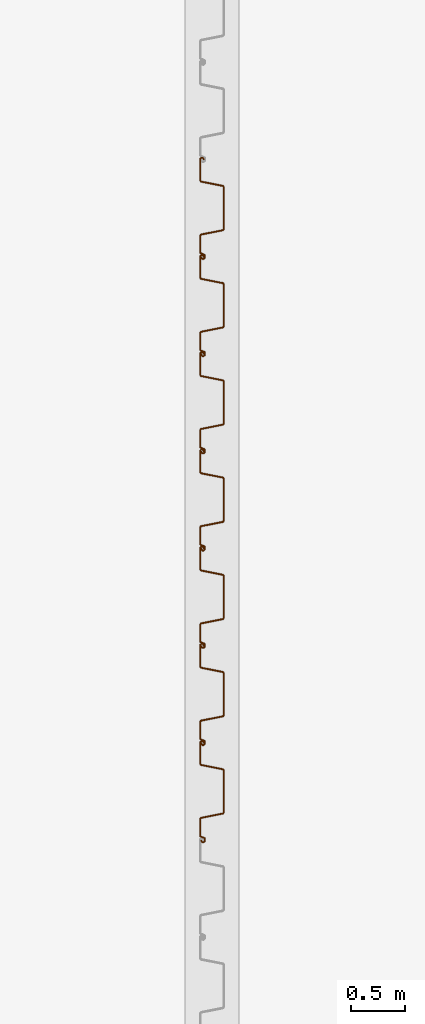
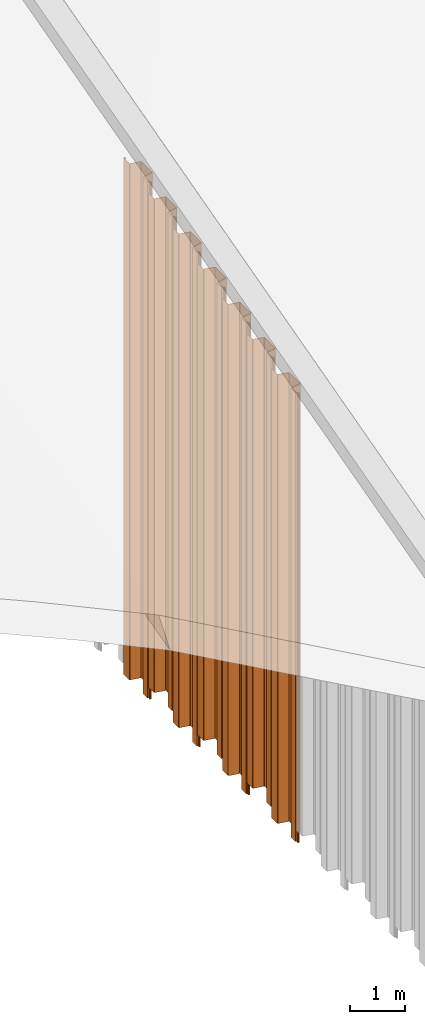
# One storey, part 25 of 32: 7 proxies.
"""IFC2X3 building model written with IfcOpenShell, lengths in millimetres."""

from ifc_helpers import new_model, entity, si_unit, converted_unit, derived_unit, direction, frame, frame_2d, origin, place, context, subcontext, project, spatial, polyline, circle_curve, parameter, trimmed, segment, composite_curve, outline, extrude, source, transform, mapped, type_object, type_shapes, element, save


model = new_model("IFC2X3")

# Units and contexts
model_context = context("Model", 3, precision=0.01, world=origin(), true_north=direction((6.12303176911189e-17, 1.0)))
body_context = subcontext(model_context, "Body", "Model", "MODEL_VIEW")
ifc_project = project(units=[si_unit("LENGTHUNIT", "METRE", prefix="MILLI"), si_unit("AREAUNIT", "SQUARE_METRE"), si_unit("VOLUMEUNIT", "CUBIC_METRE"), converted_unit("PLANEANGLEUNIT", "DEGREE", entity("IfcRatioMeasure", 0.0174532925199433), si_unit("PLANEANGLEUNIT", "RADIAN"), dimensions=[0, 0, 0, 0, 0, 0, 0]), si_unit("MASSUNIT", "GRAM", prefix="KILO"), derived_unit("MASSDENSITYUNIT", [(si_unit("MASSUNIT", "GRAM", prefix="KILO"), 1), (si_unit("LENGTHUNIT", "METRE"), -3)]), si_unit("TIMEUNIT", "SECOND"), si_unit("FREQUENCYUNIT", "HERTZ"), si_unit("THERMODYNAMICTEMPERATUREUNIT", "DEGREE_CELSIUS"), derived_unit("THERMALTRANSMITTANCEUNIT", [(si_unit("MASSUNIT", "GRAM", prefix="KILO"), 1), (si_unit("THERMODYNAMICTEMPERATUREUNIT", "KELVIN"), -1), (si_unit("TIMEUNIT", "SECOND"), -3)]), derived_unit("VOLUMETRICFLOWRATEUNIT", [(si_unit("LENGTHUNIT", "METRE"), 3), (si_unit("TIMEUNIT", "SECOND"), -1)]), si_unit("ELECTRICCURRENTUNIT", "AMPERE"), si_unit("ELECTRICVOLTAGEUNIT", "VOLT"), si_unit("POWERUNIT", "WATT"), si_unit("FORCEUNIT", "NEWTON", prefix="KILO"), si_unit("ILLUMINANCEUNIT", "LUX"), si_unit("LUMINOUSFLUXUNIT", "LUMEN"), si_unit("LUMINOUSINTENSITYUNIT", "CANDELA"), derived_unit("USERDEFINED", [(si_unit("MASSUNIT", "GRAM", prefix="KILO"), -1), (si_unit("LENGTHUNIT", "METRE"), -2), (si_unit("TIMEUNIT", "SECOND"), 3), (si_unit("LUMINOUSFLUXUNIT", "LUMEN"), 1)]), derived_unit("LINEARVELOCITYUNIT", [(si_unit("LENGTHUNIT", "METRE"), 1), (si_unit("TIMEUNIT", "SECOND"), -1)]), si_unit("PRESSUREUNIT", "PASCAL"), derived_unit("USERDEFINED", [(si_unit("LENGTHUNIT", "METRE"), -2), (si_unit("MASSUNIT", "GRAM", prefix="KILO"), 1), (si_unit("TIMEUNIT", "SECOND"), -2)])], contexts=[model_context])

# Site, building, storey
site_placement = place(None, origin())
site = spatial("IfcSite", under=ifc_project, at=site_placement, Name="Default", CompositionType="ELEMENT")
building_placement = place(site_placement, origin())
building = spatial("IfcBuilding", under=site, at=building_placement, CompositionType="ELEMENT")
storey_placement = place(building_placement, origin())
storey = spatial("IfcBuildingStorey", under=building, at=storey_placement, Name="矢板", CompositionType="ELEMENT", Elevation=0.0)

# Proxies
building_element_proxy_type_1 = type_object("IfcBuildingElementProxyType", Name="鋼矢板10H型", PredefinedType="NOTDEFINED")
shared_shape_1 = source(origin(), body_context, "Body", "SweptSolid", [
    extrude(outline(composite_curve([segment(trimmed(circle_curve(frame_2d((85.3662976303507, 306.644432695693), x_axis=(0.422618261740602, 0.906307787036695)), 13.885714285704), [parameter(24.9999999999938)], [parameter(90.0000000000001)], True, "PARAMETER"), True, "CONTINUOUS"), segment(polyline([(72.7815666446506, 312.512789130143), (9.8129512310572, 177.476157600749)]), True, "CONTINUOUS"), segment(trimmed(circle_curve(frame_2d((29.3891994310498, 168.347603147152), x_axis=(0.422618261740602, 0.906307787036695)), 21.6), [parameter(90.0000000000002)], [parameter(168.69006752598)], True, "PARAMETER"), True, "CONTINUOUS"), segment(polyline([(16.598697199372, 150.941769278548), (175.329723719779, 34.2998683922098)]), True, "CONTINUOUS"), segment(trimmed(circle_curve(frame_2d((168.93447260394, 25.596951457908), x_axis=(0.422618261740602, 0.906307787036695)), 10.7999999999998), [parameter(270.0)], [parameter(348.690067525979)], True, "PARAMETER"), False, "CONTINUOUS"), segment(polyline([(178.722596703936, 21.0326742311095), (18.2974003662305, -323.000269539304)]), True, "CONTINUOUS"), segment(trimmed(circle_curve(frame_2d((8.50927626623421, -318.435992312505), x_axis=(0.422618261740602, 0.906307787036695)), 10.8), [parameter(191.30993247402)], [parameter(269.999999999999)], True, "PARAMETER"), False, "CONTINUOUS"), segment(polyline([(5.95324328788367, -328.929166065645), (-185.429973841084, -282.310113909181)]), True, "CONTINUOUS"), segment(trimmed(circle_curve(frame_2d((-190.542039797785, -303.296461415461), x_axis=(0.422618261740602, 0.906307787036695)), 21.6000000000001), [parameter(11.3099324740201)], [parameter(90.0000000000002)], True, "PARAMETER"), True, "CONTINUOUS"), segment(polyline([(-210.118287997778, -294.167906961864), (-290.330886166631, -466.184378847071)]), True, "CONTINUOUS"), segment(trimmed(circle_curve(frame_2d((-270.754637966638, -475.312933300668), x_axis=(0.422618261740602, 0.906307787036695)), 21.6), [parameter(90.0000000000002)], [parameter(269.999999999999)], True, "PARAMETER"), True, "CONTINUOUS"), segment(polyline([(-251.178389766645, -484.441487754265), (-249.065298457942, -479.909948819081)]), True, "CONTINUOUS"), segment(polyline([(-249.065298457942, -479.909948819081), (-258.853422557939, -475.345671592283)]), True, "CONTINUOUS"), segment(polyline([(-258.853422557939, -475.345671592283), (-260.966513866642, -479.877210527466)]), True, "CONTINUOUS"), segment(trimmed(circle_curve(frame_2d((-270.754637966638, -475.312933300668), x_axis=(0.422618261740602, 0.906307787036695)), 10.8), [parameter(90.0000000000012)], [parameter(270.0)], True, "PARAMETER"), False, "CONTINUOUS"), segment(polyline([(-280.542762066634, -470.748656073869), (-200.330163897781, -298.732184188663)]), True, "CONTINUOUS"), segment(trimmed(circle_curve(frame_2d((-190.542039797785, -303.296461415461), x_axis=(0.422618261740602, 0.906307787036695)), 10.8), [parameter(11.3099324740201)], [parameter(89.9999999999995)], True, "PARAMETER"), False, "CONTINUOUS"), segment(polyline([(-187.986006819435, -292.803287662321), (3.39721030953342, -339.422339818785)]), True, "CONTINUOUS"), segment(trimmed(circle_curve(frame_2d((8.50927626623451, -318.435992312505), x_axis=(0.422618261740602, 0.906307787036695)), 21.6), [parameter(191.30993247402)], [parameter(270.0)], True, "PARAMETER"), True, "CONTINUOUS"), segment(polyline([(28.0855244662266, -327.564546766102), (188.510720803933, 16.4683970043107)]), True, "CONTINUOUS"), segment(trimmed(circle_curve(frame_2d((168.93447260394, 25.5969514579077), x_axis=(0.422618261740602, 0.906307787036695)), 21.6), [parameter(270.0)], [parameter(348.69006752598)], True, "PARAMETER"), True, "CONTINUOUS"), segment(polyline([(181.724974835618, 43.0027853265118), (22.9939483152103, 159.644686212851)]), True, "CONTINUOUS"), segment(trimmed(circle_curve(frame_2d((29.3891994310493, 168.347603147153), x_axis=(0.422618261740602, 0.906307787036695)), 10.7999999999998), [parameter(89.9999999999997)], [parameter(168.690067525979)], True, "PARAMETER"), False, "CONTINUOUS"), segment(polyline([(19.6010753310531, 172.911880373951), (82.5696907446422, 307.948511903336)]), True, "CONTINUOUS"), segment(trimmed(circle_curve(frame_2d((85.3662976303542, 306.64443269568), x_axis=(0.422618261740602, 0.906307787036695)), 3.08571428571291), [parameter(25.0000000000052)], [parameter(90.0000000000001)], True, "PARAMETER"), False, "CONTINUOUS"), segment(polyline([(85.3662976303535, 309.730146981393), (122.220231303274, 309.730146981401)]), True, "CONTINUOUS"), segment(trimmed(circle_curve(frame_2d((122.220231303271, 323.615861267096), x_axis=(0.422618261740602, 0.906307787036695)), 13.8857142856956), [parameter(205.000000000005)], [parameter(270.0)], True, "PARAMETER"), True, "CONTINUOUS"), segment(polyline([(134.804962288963, 317.747504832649), (141.079261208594, 331.202782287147)]), True, "CONTINUOUS"), segment(trimmed(circle_curve(frame_2d((121.503013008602, 340.331336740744), x_axis=(0.422618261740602, 0.906307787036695)), 21.6), [parameter(270.0)], [parameter(90.0000000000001)], True, "PARAMETER"), True, "CONTINUOUS"), segment(polyline([(101.926764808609, 349.459891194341), (99.8136734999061, 344.928352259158)]), True, "CONTINUOUS"), segment(polyline([(99.8136734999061, 344.928352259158), (109.601797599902, 340.364075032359)]), True, "CONTINUOUS"), segment(polyline([(109.601797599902, 340.364075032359), (111.714888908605, 344.895613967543)]), True, "CONTINUOUS"), segment(trimmed(circle_curve(frame_2d((121.503013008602, 340.331336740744), x_axis=(0.422618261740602, 0.906307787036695)), 10.8), [parameter(270.0)], [parameter(89.9999999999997)], True, "PARAMETER"), False, "CONTINUOUS"), segment(polyline([(131.291137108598, 335.767059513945), (125.01683818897, 322.311782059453)]), True, "CONTINUOUS"), segment(trimmed(circle_curve(frame_2d((122.220231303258, 323.615861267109), x_axis=(0.422618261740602, 0.906307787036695)), 3.08571428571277), [parameter(204.999999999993)], [parameter(270.0)], True, "PARAMETER"), False, "CONTINUOUS"), segment(polyline([(122.220231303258, 320.530146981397), (85.3662976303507, 320.530146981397)]), True, "CONTINUOUS")], self_intersect=False)), frame((95.205667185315, -48.8888888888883, -10000.0), z_axis=(0.0, 0.0, -1.0), x_axis=(0.4226182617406, 0.906307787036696, 0.0)), (0.0, 0.0, -1.0), 10000.0),
])
type_shapes(building_element_proxy_type_1, [shared_shape_1])
for number, where, z_axis, x_axis in (
    (1, (148500.0, -8749.0, 12265.0), (0.0, 0.0, 1.0), (0.0, -1.0, 0.0)),
    (2, (148500.0, -9649.0, 12028.0), (0.0, 0.0, 1.0), (0.0, -1.0, 0.0)),
):
    element("IfcBuildingElementProxy", number, at=place(storey_placement, frame(where, z_axis=z_axis, x_axis=x_axis)), inside=storey, type_object=building_element_proxy_type_1, Name="鋼矢板10H型:鋼矢板10H型", ObjectType="鋼矢板10H型:鋼矢板10H型", context=body_context, shape_type="MappedRepresentation", body=[
        mapped(shared_shape_1, transform((0.0, 0.0, 0.0), scale=1.0)),
    ])
building_element_proxy_type_2 = type_object("IfcBuildingElementProxyType", Name="鋼矢板10H型", PredefinedType="NOTDEFINED")
shared_shape_2 = source(origin(), body_context, "Body", "SweptSolid", [
    extrude(outline(composite_curve([segment(trimmed(circle_curve(frame_2d((85.3662976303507, 306.644432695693), x_axis=(0.422618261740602, 0.906307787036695)), 13.885714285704), [parameter(24.9999999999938)], [parameter(90.0000000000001)], True, "PARAMETER"), True, "CONTINUOUS"), segment(polyline([(72.7815666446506, 312.512789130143), (9.8129512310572, 177.476157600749)]), True, "CONTINUOUS"), segment(trimmed(circle_curve(frame_2d((29.3891994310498, 168.347603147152), x_axis=(0.422618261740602, 0.906307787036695)), 21.6), [parameter(90.0000000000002)], [parameter(168.69006752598)], True, "PARAMETER"), True, "CONTINUOUS"), segment(polyline([(16.598697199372, 150.941769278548), (175.329723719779, 34.2998683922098)]), True, "CONTINUOUS"), segment(trimmed(circle_curve(frame_2d((168.93447260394, 25.596951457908), x_axis=(0.422618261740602, 0.906307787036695)), 10.7999999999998), [parameter(270.0)], [parameter(348.690067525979)], True, "PARAMETER"), False, "CONTINUOUS"), segment(polyline([(178.722596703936, 21.0326742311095), (18.2974003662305, -323.000269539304)]), True, "CONTINUOUS"), segment(trimmed(circle_curve(frame_2d((8.50927626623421, -318.435992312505), x_axis=(0.422618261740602, 0.906307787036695)), 10.8), [parameter(191.30993247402)], [parameter(269.999999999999)], True, "PARAMETER"), False, "CONTINUOUS"), segment(polyline([(5.95324328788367, -328.929166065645), (-185.429973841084, -282.310113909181)]), True, "CONTINUOUS"), segment(trimmed(circle_curve(frame_2d((-190.542039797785, -303.296461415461), x_axis=(0.422618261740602, 0.906307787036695)), 21.6000000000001), [parameter(11.3099324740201)], [parameter(90.0000000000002)], True, "PARAMETER"), True, "CONTINUOUS"), segment(polyline([(-210.118287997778, -294.167906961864), (-290.330886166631, -466.184378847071)]), True, "CONTINUOUS"), segment(trimmed(circle_curve(frame_2d((-270.754637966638, -475.312933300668), x_axis=(0.422618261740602, 0.906307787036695)), 21.6), [parameter(90.0000000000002)], [parameter(269.999999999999)], True, "PARAMETER"), True, "CONTINUOUS"), segment(polyline([(-251.178389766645, -484.441487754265), (-249.065298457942, -479.909948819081)]), True, "CONTINUOUS"), segment(polyline([(-249.065298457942, -479.909948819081), (-258.853422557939, -475.345671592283)]), True, "CONTINUOUS"), segment(polyline([(-258.853422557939, -475.345671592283), (-260.966513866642, -479.877210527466)]), True, "CONTINUOUS"), segment(trimmed(circle_curve(frame_2d((-270.754637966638, -475.312933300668), x_axis=(0.422618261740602, 0.906307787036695)), 10.8), [parameter(90.0000000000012)], [parameter(270.0)], True, "PARAMETER"), False, "CONTINUOUS"), segment(polyline([(-280.542762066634, -470.748656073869), (-200.330163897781, -298.732184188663)]), True, "CONTINUOUS"), segment(trimmed(circle_curve(frame_2d((-190.542039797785, -303.296461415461), x_axis=(0.422618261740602, 0.906307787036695)), 10.8), [parameter(11.3099324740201)], [parameter(89.9999999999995)], True, "PARAMETER"), False, "CONTINUOUS"), segment(polyline([(-187.986006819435, -292.803287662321), (3.39721030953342, -339.422339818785)]), True, "CONTINUOUS"), segment(trimmed(circle_curve(frame_2d((8.50927626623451, -318.435992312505), x_axis=(0.422618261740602, 0.906307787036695)), 21.6), [parameter(191.30993247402)], [parameter(270.0)], True, "PARAMETER"), True, "CONTINUOUS"), segment(polyline([(28.0855244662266, -327.564546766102), (188.510720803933, 16.4683970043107)]), True, "CONTINUOUS"), segment(trimmed(circle_curve(frame_2d((168.93447260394, 25.5969514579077), x_axis=(0.422618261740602, 0.906307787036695)), 21.6), [parameter(270.0)], [parameter(348.69006752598)], True, "PARAMETER"), True, "CONTINUOUS"), segment(polyline([(181.724974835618, 43.0027853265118), (22.9939483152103, 159.644686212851)]), True, "CONTINUOUS"), segment(trimmed(circle_curve(frame_2d((29.3891994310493, 168.347603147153), x_axis=(0.422618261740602, 0.906307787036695)), 10.7999999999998), [parameter(89.9999999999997)], [parameter(168.690067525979)], True, "PARAMETER"), False, "CONTINUOUS"), segment(polyline([(19.6010753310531, 172.911880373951), (82.5696907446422, 307.948511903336)]), True, "CONTINUOUS"), segment(trimmed(circle_curve(frame_2d((85.3662976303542, 306.64443269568), x_axis=(0.422618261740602, 0.906307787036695)), 3.08571428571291), [parameter(25.0000000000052)], [parameter(90.0000000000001)], True, "PARAMETER"), False, "CONTINUOUS"), segment(polyline([(85.3662976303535, 309.730146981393), (122.220231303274, 309.730146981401)]), True, "CONTINUOUS"), segment(trimmed(circle_curve(frame_2d((122.220231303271, 323.615861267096), x_axis=(0.422618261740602, 0.906307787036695)), 13.8857142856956), [parameter(205.000000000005)], [parameter(270.0)], True, "PARAMETER"), True, "CONTINUOUS"), segment(polyline([(134.804962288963, 317.747504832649), (141.079261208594, 331.202782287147)]), True, "CONTINUOUS"), segment(trimmed(circle_curve(frame_2d((121.503013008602, 340.331336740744), x_axis=(0.422618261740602, 0.906307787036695)), 21.6), [parameter(270.0)], [parameter(90.0000000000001)], True, "PARAMETER"), True, "CONTINUOUS"), segment(polyline([(101.926764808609, 349.459891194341), (99.8136734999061, 344.928352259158)]), True, "CONTINUOUS"), segment(polyline([(99.8136734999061, 344.928352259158), (109.601797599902, 340.364075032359)]), True, "CONTINUOUS"), segment(polyline([(109.601797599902, 340.364075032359), (111.714888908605, 344.895613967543)]), True, "CONTINUOUS"), segment(trimmed(circle_curve(frame_2d((121.503013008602, 340.331336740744), x_axis=(0.422618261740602, 0.906307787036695)), 10.8), [parameter(270.0)], [parameter(89.9999999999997)], True, "PARAMETER"), False, "CONTINUOUS"), segment(polyline([(131.291137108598, 335.767059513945), (125.01683818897, 322.311782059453)]), True, "CONTINUOUS"), segment(trimmed(circle_curve(frame_2d((122.220231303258, 323.615861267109), x_axis=(0.422618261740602, 0.906307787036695)), 3.08571428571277), [parameter(204.999999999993)], [parameter(270.0)], True, "PARAMETER"), False, "CONTINUOUS"), segment(polyline([(122.220231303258, 320.530146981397), (85.3662976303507, 320.530146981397)]), True, "CONTINUOUS")], self_intersect=False)), frame((95.205667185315, -48.8888888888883, -10500.0), z_axis=(0.0, 0.0, -1.0), x_axis=(0.4226182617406, 0.906307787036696, 0.0)), (0.0, 0.0, -1.0), 10500.0),
])
type_shapes(building_element_proxy_type_2, [shared_shape_2])
for number, where, z_axis, x_axis in (
    (3, (148500.0, -6949.0, 12739.0), (0.0, 0.0, 1.0), (0.0, -1.0, 0.0)),
    (4, (148500.0, -7849.0, 12502.0), (0.0, 0.0, 1.0), (0.0, -1.0, 0.0)),
):
    element("IfcBuildingElementProxy", number, at=place(storey_placement, frame(where, z_axis=z_axis, x_axis=x_axis)), inside=storey, type_object=building_element_proxy_type_2, Name="鋼矢板10H型:鋼矢板10H型", ObjectType="鋼矢板10H型:鋼矢板10H型", context=body_context, shape_type="MappedRepresentation", body=[
        mapped(shared_shape_2, transform((0.0, 0.0, 0.0), scale=1.0)),
    ])
building_element_proxy_type_3 = type_object("IfcBuildingElementProxyType", Name="鋼矢板10H型", PredefinedType="NOTDEFINED")
shared_shape_3 = source(origin(), body_context, "Body", "SweptSolid", [
    extrude(outline(composite_curve([segment(trimmed(circle_curve(frame_2d((85.3662976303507, 306.644432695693), x_axis=(0.422618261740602, 0.906307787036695)), 13.885714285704), [parameter(24.9999999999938)], [parameter(90.0000000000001)], True, "PARAMETER"), True, "CONTINUOUS"), segment(polyline([(72.7815666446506, 312.512789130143), (9.8129512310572, 177.476157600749)]), True, "CONTINUOUS"), segment(trimmed(circle_curve(frame_2d((29.3891994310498, 168.347603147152), x_axis=(0.422618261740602, 0.906307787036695)), 21.6), [parameter(90.0000000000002)], [parameter(168.69006752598)], True, "PARAMETER"), True, "CONTINUOUS"), segment(polyline([(16.598697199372, 150.941769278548), (175.329723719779, 34.2998683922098)]), True, "CONTINUOUS"), segment(trimmed(circle_curve(frame_2d((168.93447260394, 25.596951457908), x_axis=(0.422618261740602, 0.906307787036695)), 10.7999999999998), [parameter(270.0)], [parameter(348.690067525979)], True, "PARAMETER"), False, "CONTINUOUS"), segment(polyline([(178.722596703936, 21.0326742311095), (18.2974003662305, -323.000269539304)]), True, "CONTINUOUS"), segment(trimmed(circle_curve(frame_2d((8.50927626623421, -318.435992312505), x_axis=(0.422618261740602, 0.906307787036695)), 10.8), [parameter(191.30993247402)], [parameter(269.999999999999)], True, "PARAMETER"), False, "CONTINUOUS"), segment(polyline([(5.95324328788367, -328.929166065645), (-185.429973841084, -282.310113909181)]), True, "CONTINUOUS"), segment(trimmed(circle_curve(frame_2d((-190.542039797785, -303.296461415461), x_axis=(0.422618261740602, 0.906307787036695)), 21.6000000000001), [parameter(11.3099324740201)], [parameter(90.0000000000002)], True, "PARAMETER"), True, "CONTINUOUS"), segment(polyline([(-210.118287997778, -294.167906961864), (-290.330886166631, -466.184378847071)]), True, "CONTINUOUS"), segment(trimmed(circle_curve(frame_2d((-270.754637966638, -475.312933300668), x_axis=(0.422618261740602, 0.906307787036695)), 21.6), [parameter(90.0000000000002)], [parameter(269.999999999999)], True, "PARAMETER"), True, "CONTINUOUS"), segment(polyline([(-251.178389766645, -484.441487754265), (-249.065298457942, -479.909948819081)]), True, "CONTINUOUS"), segment(polyline([(-249.065298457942, -479.909948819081), (-258.853422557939, -475.345671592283)]), True, "CONTINUOUS"), segment(polyline([(-258.853422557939, -475.345671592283), (-260.966513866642, -479.877210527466)]), True, "CONTINUOUS"), segment(trimmed(circle_curve(frame_2d((-270.754637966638, -475.312933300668), x_axis=(0.422618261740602, 0.906307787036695)), 10.8), [parameter(90.0000000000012)], [parameter(270.0)], True, "PARAMETER"), False, "CONTINUOUS"), segment(polyline([(-280.542762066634, -470.748656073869), (-200.330163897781, -298.732184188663)]), True, "CONTINUOUS"), segment(trimmed(circle_curve(frame_2d((-190.542039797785, -303.296461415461), x_axis=(0.422618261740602, 0.906307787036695)), 10.8), [parameter(11.3099324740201)], [parameter(89.9999999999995)], True, "PARAMETER"), False, "CONTINUOUS"), segment(polyline([(-187.986006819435, -292.803287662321), (3.39721030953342, -339.422339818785)]), True, "CONTINUOUS"), segment(trimmed(circle_curve(frame_2d((8.50927626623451, -318.435992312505), x_axis=(0.422618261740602, 0.906307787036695)), 21.6), [parameter(191.30993247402)], [parameter(270.0)], True, "PARAMETER"), True, "CONTINUOUS"), segment(polyline([(28.0855244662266, -327.564546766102), (188.510720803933, 16.4683970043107)]), True, "CONTINUOUS"), segment(trimmed(circle_curve(frame_2d((168.93447260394, 25.5969514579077), x_axis=(0.422618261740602, 0.906307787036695)), 21.6), [parameter(270.0)], [parameter(348.69006752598)], True, "PARAMETER"), True, "CONTINUOUS"), segment(polyline([(181.724974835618, 43.0027853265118), (22.9939483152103, 159.644686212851)]), True, "CONTINUOUS"), segment(trimmed(circle_curve(frame_2d((29.3891994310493, 168.347603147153), x_axis=(0.422618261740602, 0.906307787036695)), 10.7999999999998), [parameter(89.9999999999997)], [parameter(168.690067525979)], True, "PARAMETER"), False, "CONTINUOUS"), segment(polyline([(19.6010753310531, 172.911880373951), (82.5696907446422, 307.948511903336)]), True, "CONTINUOUS"), segment(trimmed(circle_curve(frame_2d((85.3662976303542, 306.64443269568), x_axis=(0.422618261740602, 0.906307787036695)), 3.08571428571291), [parameter(25.0000000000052)], [parameter(90.0000000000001)], True, "PARAMETER"), False, "CONTINUOUS"), segment(polyline([(85.3662976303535, 309.730146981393), (122.220231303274, 309.730146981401)]), True, "CONTINUOUS"), segment(trimmed(circle_curve(frame_2d((122.220231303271, 323.615861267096), x_axis=(0.422618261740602, 0.906307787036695)), 13.8857142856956), [parameter(205.000000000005)], [parameter(270.0)], True, "PARAMETER"), True, "CONTINUOUS"), segment(polyline([(134.804962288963, 317.747504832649), (141.079261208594, 331.202782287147)]), True, "CONTINUOUS"), segment(trimmed(circle_curve(frame_2d((121.503013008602, 340.331336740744), x_axis=(0.422618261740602, 0.906307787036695)), 21.6), [parameter(270.0)], [parameter(90.0000000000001)], True, "PARAMETER"), True, "CONTINUOUS"), segment(polyline([(101.926764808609, 349.459891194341), (99.8136734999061, 344.928352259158)]), True, "CONTINUOUS"), segment(polyline([(99.8136734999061, 344.928352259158), (109.601797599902, 340.364075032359)]), True, "CONTINUOUS"), segment(polyline([(109.601797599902, 340.364075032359), (111.714888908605, 344.895613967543)]), True, "CONTINUOUS"), segment(trimmed(circle_curve(frame_2d((121.503013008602, 340.331336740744), x_axis=(0.422618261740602, 0.906307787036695)), 10.8), [parameter(270.0)], [parameter(89.9999999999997)], True, "PARAMETER"), False, "CONTINUOUS"), segment(polyline([(131.291137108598, 335.767059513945), (125.01683818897, 322.311782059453)]), True, "CONTINUOUS"), segment(trimmed(circle_curve(frame_2d((122.220231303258, 323.615861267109), x_axis=(0.422618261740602, 0.906307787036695)), 3.08571428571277), [parameter(204.999999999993)], [parameter(270.0)], True, "PARAMETER"), False, "CONTINUOUS"), segment(polyline([(122.220231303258, 320.530146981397), (85.3662976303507, 320.530146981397)]), True, "CONTINUOUS")], self_intersect=False)), frame((95.205667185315, -48.8888888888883, -11000.0), z_axis=(0.0, 0.0, -1.0), x_axis=(0.4226182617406, 0.906307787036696, 0.0)), (0.0, 0.0, -1.0), 11000.0),
])
type_shapes(building_element_proxy_type_3, [shared_shape_3])
for number, where, z_axis, x_axis in (
    (5, (148500.0, -5149.0, 13214.0), (0.0, 0.0, 1.0), (0.0, -1.0, 0.0)),
    (6, (148500.0, -6049.0, 12977.0), (0.0, 0.0, 1.0), (0.0, -1.0, 0.0)),
):
    element("IfcBuildingElementProxy", number, at=place(storey_placement, frame(where, z_axis=z_axis, x_axis=x_axis)), inside=storey, type_object=building_element_proxy_type_3, Name="鋼矢板10H型:鋼矢板10H型", ObjectType="鋼矢板10H型:鋼矢板10H型", context=body_context, shape_type="MappedRepresentation", body=[
        mapped(shared_shape_3, transform((0.0, 0.0, 0.0), scale=1.0)),
    ])
building_element_proxy_type_4 = type_object("IfcBuildingElementProxyType", Name="鋼矢板10H型", PredefinedType="NOTDEFINED")
shared_shape_4 = source(origin(), body_context, "Body", "SweptSolid", [
    extrude(outline(composite_curve([segment(trimmed(circle_curve(frame_2d((85.3662976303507, 306.644432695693), x_axis=(0.422618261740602, 0.906307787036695)), 13.885714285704), [parameter(24.9999999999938)], [parameter(90.0000000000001)], True, "PARAMETER"), True, "CONTINUOUS"), segment(polyline([(72.7815666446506, 312.512789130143), (9.8129512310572, 177.476157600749)]), True, "CONTINUOUS"), segment(trimmed(circle_curve(frame_2d((29.3891994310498, 168.347603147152), x_axis=(0.422618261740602, 0.906307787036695)), 21.6), [parameter(90.0000000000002)], [parameter(168.69006752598)], True, "PARAMETER"), True, "CONTINUOUS"), segment(polyline([(16.598697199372, 150.941769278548), (175.329723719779, 34.2998683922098)]), True, "CONTINUOUS"), segment(trimmed(circle_curve(frame_2d((168.93447260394, 25.596951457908), x_axis=(0.422618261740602, 0.906307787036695)), 10.7999999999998), [parameter(270.0)], [parameter(348.690067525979)], True, "PARAMETER"), False, "CONTINUOUS"), segment(polyline([(178.722596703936, 21.0326742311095), (18.2974003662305, -323.000269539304)]), True, "CONTINUOUS"), segment(trimmed(circle_curve(frame_2d((8.50927626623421, -318.435992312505), x_axis=(0.422618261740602, 0.906307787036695)), 10.8), [parameter(191.30993247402)], [parameter(269.999999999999)], True, "PARAMETER"), False, "CONTINUOUS"), segment(polyline([(5.95324328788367, -328.929166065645), (-185.429973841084, -282.310113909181)]), True, "CONTINUOUS"), segment(trimmed(circle_curve(frame_2d((-190.542039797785, -303.296461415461), x_axis=(0.422618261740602, 0.906307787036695)), 21.6000000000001), [parameter(11.3099324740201)], [parameter(90.0000000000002)], True, "PARAMETER"), True, "CONTINUOUS"), segment(polyline([(-210.118287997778, -294.167906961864), (-290.330886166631, -466.184378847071)]), True, "CONTINUOUS"), segment(trimmed(circle_curve(frame_2d((-270.754637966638, -475.312933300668), x_axis=(0.422618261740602, 0.906307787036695)), 21.6), [parameter(90.0000000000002)], [parameter(269.999999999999)], True, "PARAMETER"), True, "CONTINUOUS"), segment(polyline([(-251.178389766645, -484.441487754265), (-249.065298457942, -479.909948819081)]), True, "CONTINUOUS"), segment(polyline([(-249.065298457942, -479.909948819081), (-258.853422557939, -475.345671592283)]), True, "CONTINUOUS"), segment(polyline([(-258.853422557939, -475.345671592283), (-260.966513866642, -479.877210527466)]), True, "CONTINUOUS"), segment(trimmed(circle_curve(frame_2d((-270.754637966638, -475.312933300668), x_axis=(0.422618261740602, 0.906307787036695)), 10.8), [parameter(90.0000000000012)], [parameter(270.0)], True, "PARAMETER"), False, "CONTINUOUS"), segment(polyline([(-280.542762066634, -470.748656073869), (-200.330163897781, -298.732184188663)]), True, "CONTINUOUS"), segment(trimmed(circle_curve(frame_2d((-190.542039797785, -303.296461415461), x_axis=(0.422618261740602, 0.906307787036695)), 10.8), [parameter(11.3099324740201)], [parameter(89.9999999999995)], True, "PARAMETER"), False, "CONTINUOUS"), segment(polyline([(-187.986006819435, -292.803287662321), (3.39721030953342, -339.422339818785)]), True, "CONTINUOUS"), segment(trimmed(circle_curve(frame_2d((8.50927626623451, -318.435992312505), x_axis=(0.422618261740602, 0.906307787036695)), 21.6), [parameter(191.30993247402)], [parameter(270.0)], True, "PARAMETER"), True, "CONTINUOUS"), segment(polyline([(28.0855244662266, -327.564546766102), (188.510720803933, 16.4683970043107)]), True, "CONTINUOUS"), segment(trimmed(circle_curve(frame_2d((168.93447260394, 25.5969514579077), x_axis=(0.422618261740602, 0.906307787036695)), 21.6), [parameter(270.0)], [parameter(348.69006752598)], True, "PARAMETER"), True, "CONTINUOUS"), segment(polyline([(181.724974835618, 43.0027853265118), (22.9939483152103, 159.644686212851)]), True, "CONTINUOUS"), segment(trimmed(circle_curve(frame_2d((29.3891994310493, 168.347603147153), x_axis=(0.422618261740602, 0.906307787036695)), 10.7999999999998), [parameter(89.9999999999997)], [parameter(168.690067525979)], True, "PARAMETER"), False, "CONTINUOUS"), segment(polyline([(19.6010753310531, 172.911880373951), (82.5696907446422, 307.948511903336)]), True, "CONTINUOUS"), segment(trimmed(circle_curve(frame_2d((85.3662976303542, 306.64443269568), x_axis=(0.422618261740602, 0.906307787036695)), 3.08571428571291), [parameter(25.0000000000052)], [parameter(90.0000000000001)], True, "PARAMETER"), False, "CONTINUOUS"), segment(polyline([(85.3662976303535, 309.730146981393), (122.220231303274, 309.730146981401)]), True, "CONTINUOUS"), segment(trimmed(circle_curve(frame_2d((122.220231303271, 323.615861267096), x_axis=(0.422618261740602, 0.906307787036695)), 13.8857142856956), [parameter(205.000000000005)], [parameter(270.0)], True, "PARAMETER"), True, "CONTINUOUS"), segment(polyline([(134.804962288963, 317.747504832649), (141.079261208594, 331.202782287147)]), True, "CONTINUOUS"), segment(trimmed(circle_curve(frame_2d((121.503013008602, 340.331336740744), x_axis=(0.422618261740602, 0.906307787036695)), 21.6), [parameter(270.0)], [parameter(90.0000000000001)], True, "PARAMETER"), True, "CONTINUOUS"), segment(polyline([(101.926764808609, 349.459891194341), (99.8136734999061, 344.928352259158)]), True, "CONTINUOUS"), segment(polyline([(99.8136734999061, 344.928352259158), (109.601797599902, 340.364075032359)]), True, "CONTINUOUS"), segment(polyline([(109.601797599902, 340.364075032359), (111.714888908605, 344.895613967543)]), True, "CONTINUOUS"), segment(trimmed(circle_curve(frame_2d((121.503013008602, 340.331336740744), x_axis=(0.422618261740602, 0.906307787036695)), 10.8), [parameter(270.0)], [parameter(89.9999999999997)], True, "PARAMETER"), False, "CONTINUOUS"), segment(polyline([(131.291137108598, 335.767059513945), (125.01683818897, 322.311782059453)]), True, "CONTINUOUS"), segment(trimmed(circle_curve(frame_2d((122.220231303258, 323.615861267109), x_axis=(0.422618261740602, 0.906307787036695)), 3.08571428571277), [parameter(204.999999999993)], [parameter(270.0)], True, "PARAMETER"), False, "CONTINUOUS"), segment(polyline([(122.220231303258, 320.530146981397), (85.3662976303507, 320.530146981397)]), True, "CONTINUOUS")], self_intersect=False)), frame((95.205667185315, -48.8888888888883, -11500.0), z_axis=(0.0, 0.0, -1.0), x_axis=(0.4226182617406, 0.906307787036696, 0.0)), (0.0, 0.0, -1.0), 11500.0),
])
type_shapes(building_element_proxy_type_4, [shared_shape_4])
proxy_placement = place(storey_placement, frame((148500.0, -4249.0, 13451.0), z_axis=(0.0, 0.0, 1.0), x_axis=(0.0, -1.0, 0.0)))
element("IfcBuildingElementProxy", 7, at=proxy_placement, inside=storey, type_object=building_element_proxy_type_4, Name="鋼矢板10H型:鋼矢板10H型", ObjectType="鋼矢板10H型:鋼矢板10H型", context=body_context, shape_type="MappedRepresentation", body=[
    mapped(shared_shape_4, transform((0.0, 0.0, 0.0), scale=1.0)),
])

save(model, "model.ifc")
